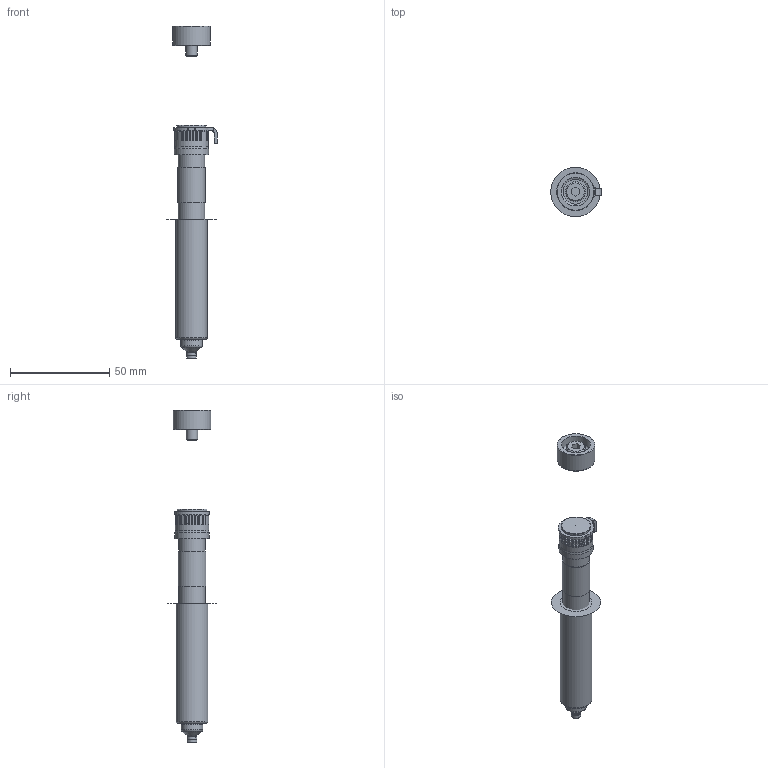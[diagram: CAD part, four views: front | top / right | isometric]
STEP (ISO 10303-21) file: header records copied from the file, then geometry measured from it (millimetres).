
FILE_DESCRIPTION(/* description */ (''),/* implementation_level */ '2;1');
FILE_NAME(/* name */ 'U350 TS.stp',/* time_stamp */ '2021-12-22T16:45:59+08:00',/* author */ (''),/* organization */ (''),/* preprocessor_version */ 'ST-DEVELOPER v16',/* originating_system */ 'SIEMENS PLM Software NX 11.0',/* authorisation */ '');
FILE_SCHEMA (('AUTOMOTIVE_DESIGN { 1 0 10303 214 3 1 1 1 }'));
Length unit declared in the file: millimetre
Products named in the file (12): 3D_EXPORT_3D_ASSY_11313321_0_id64_x_t; 3D_EXPORT_3D_ASSY_11313321_0_id59_x_t; 3D_EXPORT_3D_ASSY_11313321_0_id52_x_t; 3D_EXPORT_3D_ASSY_11313321_0_id47_x_t; 3D_EXPORT_3D_ASSY_11313321_0_id42_x_t; 3D_EXPORT_3D_ASSY_11313321_0_id31_x_t; 3D_EXPORT_3D_ASSY_11313321_0_id26_x_t; 3D_EXPORT_3D_ASSY_11313321_0_id21_x_t; 3D_EXPORT_3D_ASSY_11313321_0_id16_x_t; 3D_EXPORT_3D_ASSY_11313321_0_id11_x_t; 3D_EXPORT_3D_ASSY_11313321_0_id6_x_t; 3D_EXPORT_3D_ASSY_11313321_0_x_t
Assembly tree (15 placements, depth 2):
  3D_EXPORT_3D_ASSY_11313321_0_x_t
    3D_EXPORT_3D_ASSY_11313321_0_id6_x_t
    3D_EXPORT_3D_ASSY_11313321_0_id11_x_t
    3D_EXPORT_3D_ASSY_11313321_0_id16_x_t
    3D_EXPORT_3D_ASSY_11313321_0_id21_x_t
    3D_EXPORT_3D_ASSY_11313321_0_id26_x_t
    3D_EXPORT_3D_ASSY_11313321_0_id31_x_t  x4
    3D_EXPORT_3D_ASSY_11313321_0_id42_x_t
    3D_EXPORT_3D_ASSY_11313321_0_id47_x_t
    3D_EXPORT_3D_ASSY_11313321_0_id52_x_t  x2
    3D_EXPORT_3D_ASSY_11313321_0_id59_x_t
    3D_EXPORT_3D_ASSY_11313321_0_id64_x_t
Bounding box: 25.5 x 25 x 167.6 mm (x, y, z)
Volume: 41598 mm3; surface area: 19142.9 mm2
Topology: 15 solids, 15 shells, 338 faces, 841 edges, 535 vertices
Faces by surface type: cylinder 162, plane 92, torus 50, cone 34
Full cylindrical faces by diameter (mm): 4.5 x1, 4.9 x1, 4.905 x1, 5.795 x1, 6 x1, 6.89 x1, 7.2 x1, 8 x1, 9.4 x1, 9.95 x1, 9.97 x3, 10 x1, 11 x1, 11.06 x1, 13.3 x2, 14 x1, 14.05 x1, 14.5 x1, 15 x1, 16 x1, 16.9 x4, 17 x1, 17.27 x1, 19 x1, 25 x1
Entity records: 11649 total; most frequent: CARTESIAN_POINT 2386, DIRECTION 1367, ORIENTED_EDGE 1340, EDGE_CURVE 670, AXIS2_PLACEMENT_3D 567, VERTEX_POINT 460, EDGE_LOOP 419, PRESENTATION_STYLE_ASSIGNMENT 321
